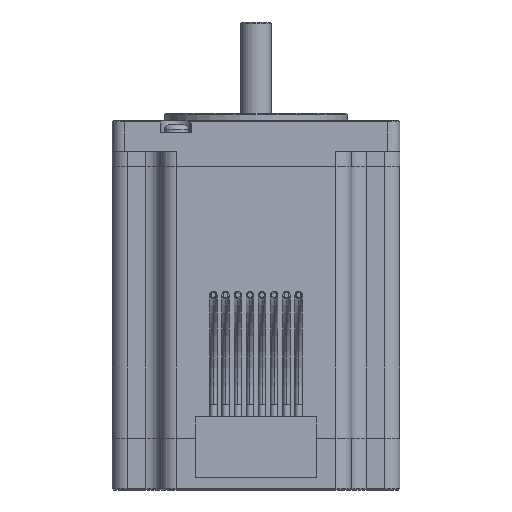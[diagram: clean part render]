
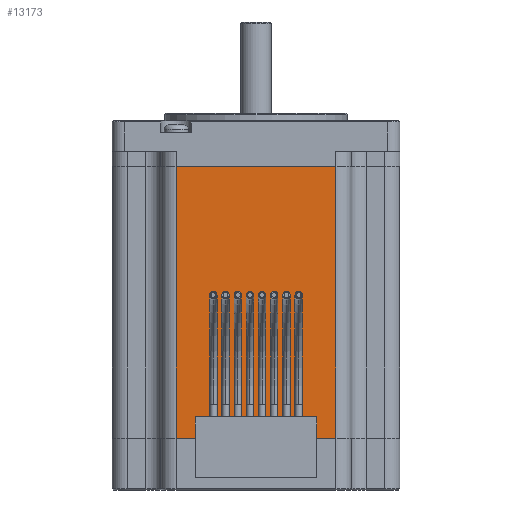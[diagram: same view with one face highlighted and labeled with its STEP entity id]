
A CAD part, front view. The second image highlights one B-rep face of the part: STEP entity #13173.
In plain terms, the highlighted planar face has unit normal (0, -1, 0).
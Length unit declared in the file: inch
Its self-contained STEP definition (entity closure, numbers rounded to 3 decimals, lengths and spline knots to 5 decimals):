
#265 = VERTEX_POINT ( 'NONE', #6250 ) ;
#268 = VERTEX_POINT ( 'NONE', #6234 ) ;
#272 = EDGE_CURVE ( 'NONE', #268, #265, #6280, .T. ) ;
#4169 = CARTESIAN_POINT ( 'NONE',  ( -0.655, -1.179, -2.606 ) ) ;
#4209 = DIRECTION ( 'NONE',  ( 0., 0., 1. ) ) ;
#4210 = VECTOR ( 'NONE', #4209, 39.37008 ) ;
#4214 = CARTESIAN_POINT ( 'NONE',  ( -0.655, -1.179, -2.606 ) ) ;
#4215 = LINE ( 'NONE', #4214, #4210 ) ;
#4258 = AXIS2_PLACEMENT_3D ( 'NONE', #4310, #4309, #4308 ) ;
#4278 = PLANE ( 'NONE',  #4258 ) ;
#4282 = FACE_OUTER_BOUND ( 'NONE', #13097, .T. ) ;
#4284 = CARTESIAN_POINT ( 'NONE',  ( 0.655, -1.179, -2.606 ) ) ;
#4304 = DIRECTION ( 'NONE',  ( 0., 0., 1. ) ) ;
#4305 = VECTOR ( 'NONE', #4304, 39.37008 ) ;
#4306 = CARTESIAN_POINT ( 'NONE',  ( 0.655, -1.179, -2.606 ) ) ;
#4308 = DIRECTION ( 'NONE',  ( -1., 0., 0. ) ) ;
#4309 = DIRECTION ( 'NONE',  ( 0., 1., 0. ) ) ;
#4310 = CARTESIAN_POINT ( 'NONE',  ( 0.655, -1.179, -2.606 ) ) ;
#4312 = LINE ( 'NONE', #4284, #4305 ) ;
#4345 = CARTESIAN_POINT ( 'NONE',  ( 0.655, -1.179, -2.606 ) ) ;
#4384 = DIRECTION ( 'NONE',  ( -1., 0., 0. ) ) ;
#4385 = VECTOR ( 'NONE', #4384, 39.37008 ) ;
#4392 = LINE ( 'NONE', #4345, #4385 ) ;
#6234 = CARTESIAN_POINT ( 'NONE',  ( 0.655, -1.179, -0.375 ) ) ;
#6250 = CARTESIAN_POINT ( 'NONE',  ( -0.655, -1.179, -0.375 ) ) ;
#6275 = DIRECTION ( 'NONE',  ( -1., 0., 0. ) ) ;
#6279 = CARTESIAN_POINT ( 'NONE',  ( 0.655, -1.179, -0.375 ) ) ;
#6280 = LINE ( 'NONE', #6279, #6287 ) ;
#6287 = VECTOR ( 'NONE', #6275, 39.37008 ) ;
#12028 = ORIENTED_EDGE ( 'NONE', *, *, #272, .T. ) ;
#12268 = VERTEX_POINT ( 'NONE', #4169 ) ;
#12600 = ORIENTED_EDGE ( 'NONE', *, *, #12768, .F. ) ;
#12768 = EDGE_CURVE ( 'NONE', #12268, #265, #4215, .T. ) ;
#13097 = EDGE_LOOP ( 'NONE', ( #12028, #12600, #14056, #13920 ) ) ;
#13173 = ADVANCED_FACE ( 'NONE', ( #4282 ), #4278, .F. ) ;
#13237 = EDGE_CURVE ( 'NONE', #13239, #268, #4312, .T. ) ;
#13239 = VERTEX_POINT ( 'NONE', #4306 ) ;
#13920 = ORIENTED_EDGE ( 'NONE', *, *, #13237, .T. ) ;
#13983 = EDGE_CURVE ( 'NONE', #13239, #12268, #4392, .T. ) ;
#14056 = ORIENTED_EDGE ( 'NONE', *, *, #13983, .F. ) ;
